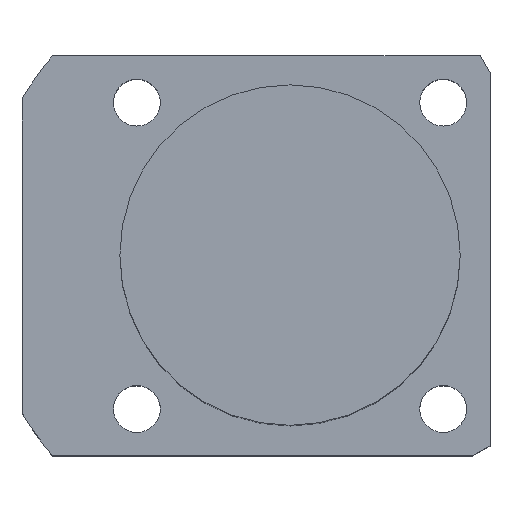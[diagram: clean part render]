
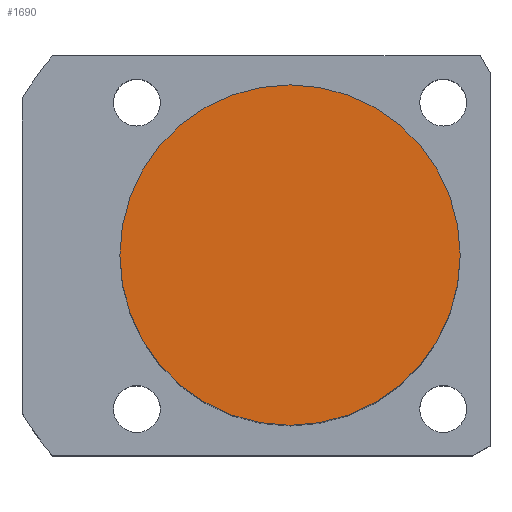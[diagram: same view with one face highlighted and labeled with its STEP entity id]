
A CAD part, top view. The second image highlights one B-rep face of the part: STEP entity #1690.
In plain terms, the highlighted planar face has unit normal (0, 0, 1).
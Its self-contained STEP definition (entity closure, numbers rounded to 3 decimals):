
#158 = DIRECTION ( 'NONE',  ( 0., 0., 1. ) ) ;
#217 = EDGE_CURVE ( 'NONE', #1488, #1396, #509, .T. ) ;
#342 = PLANE ( 'NONE',  #1427 ) ;
#509 = CIRCLE ( 'NONE', #1585, 20. ) ;
#526 = DIRECTION ( 'NONE',  ( 1., 0., 0. ) ) ;
#531 = CARTESIAN_POINT ( 'NONE',  ( 20., 0., 61.5 ) ) ;
#578 = EDGE_CURVE ( 'NONE', #1396, #1488, #1062, .T. ) ;
#668 = DIRECTION ( 'NONE',  ( 0., 0., 1. ) ) ;
#758 = DIRECTION ( 'NONE',  ( 1., 0., 0. ) ) ;
#872 = ORIENTED_EDGE ( 'NONE', *, *, #217, .T. ) ;
#1045 = CARTESIAN_POINT ( 'NONE',  ( 0., 0., 61.5 ) ) ;
#1062 = CIRCLE ( 'NONE', #1195, 20. ) ;
#1143 = CARTESIAN_POINT ( 'NONE',  ( 0., 0., 61.5 ) ) ;
#1195 = AXIS2_PLACEMENT_3D ( 'NONE', #1045, #158, #758 ) ;
#1196 = ORIENTED_EDGE ( 'NONE', *, *, #578, .T. ) ;
#1324 = CARTESIAN_POINT ( 'NONE',  ( -20., 0., 61.5 ) ) ;
#1396 = VERTEX_POINT ( 'NONE', #531 ) ;
#1405 = CARTESIAN_POINT ( 'NONE',  ( 0., 0., 61.5 ) ) ;
#1427 = AXIS2_PLACEMENT_3D ( 'NONE', #1405, #1536, #1844 ) ;
#1455 = EDGE_LOOP ( 'NONE', ( #872, #1196 ) ) ;
#1488 = VERTEX_POINT ( 'NONE', #1324 ) ;
#1536 = DIRECTION ( 'NONE',  ( 0., 0., 1. ) ) ;
#1585 = AXIS2_PLACEMENT_3D ( 'NONE', #1143, #668, #526 ) ;
#1665 = FACE_OUTER_BOUND ( 'NONE', #1455, .T. ) ;
#1690 = ADVANCED_FACE ( 'NONE', ( #1665 ), #342, .T. ) ;
#1844 = DIRECTION ( 'NONE',  ( 1., 0., 0. ) ) ;
